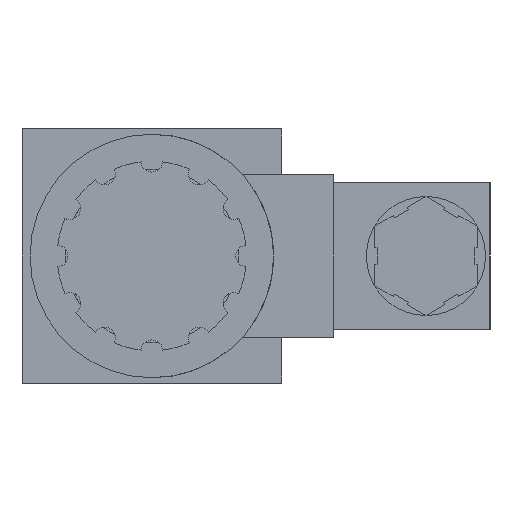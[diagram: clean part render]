
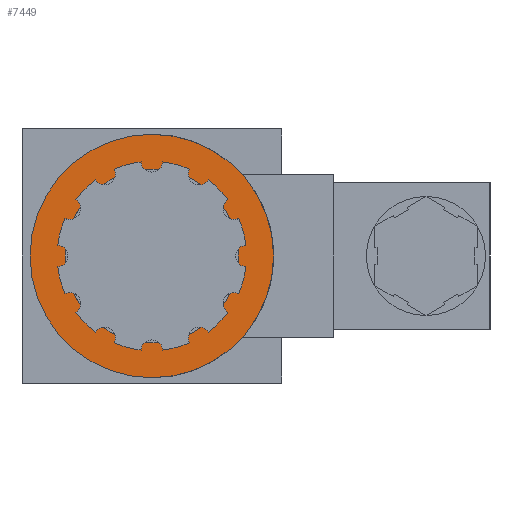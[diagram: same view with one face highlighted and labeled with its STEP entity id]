
A CAD part, left-side view. The second image highlights one B-rep face of the part: STEP entity #7449.
In plain terms, the highlighted planar face has unit normal (-1, 0, 0).
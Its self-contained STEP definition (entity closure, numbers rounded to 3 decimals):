
#232 = VERTEX_POINT ( 'NONE', #6899 ) ;
#312 = DIRECTION ( 'NONE',  ( 0., 0., 1. ) ) ;
#379 = CARTESIAN_POINT ( 'NONE',  ( -51., 24., -39.5 ) ) ;
#385 = EDGE_LOOP ( 'NONE', ( #7328, #974 ) ) ;
#974 = ORIENTED_EDGE ( 'NONE', *, *, #7630, .F. ) ;
#978 = DIRECTION ( 'NONE',  ( -1., 0., 0. ) ) ;
#1931 = CARTESIAN_POINT ( 'NONE',  ( -51., 24., -23.5 ) ) ;
#2421 = EDGE_LOOP ( 'NONE', ( #2740, #8428 ) ) ;
#2491 = CIRCLE ( 'NONE', #2957, 16. ) ;
#2616 = DIRECTION ( 'NONE',  ( 0., 0., 1. ) ) ;
#2740 = ORIENTED_EDGE ( 'NONE', *, *, #5409, .T. ) ;
#2819 = DIRECTION ( 'NONE',  ( -1., 0., 0. ) ) ;
#2897 = EDGE_CURVE ( 'NONE', #7894, #4938, #2937, .T. ) ;
#2937 = CIRCLE ( 'NONE', #5770, 16. ) ;
#2957 = AXIS2_PLACEMENT_3D ( 'NONE', #8152, #4328, #312 ) ;
#3033 = EDGE_CURVE ( 'NONE', #232, #4327, #6859, .T. ) ;
#3114 = DIRECTION ( 'NONE',  ( -1., 0., 0. ) ) ;
#3431 = AXIS2_PLACEMENT_3D ( 'NONE', #1931, #6488, #2616 ) ;
#3451 = PLANE ( 'NONE',  #6155 ) ;
#4327 = VERTEX_POINT ( 'NONE', #6952 ) ;
#4328 = DIRECTION ( 'NONE',  ( -1., 0., 0. ) ) ;
#4938 = VERTEX_POINT ( 'NONE', #8278 ) ;
#4950 = CARTESIAN_POINT ( 'NONE',  ( -51., 24., -23.5 ) ) ;
#5409 = EDGE_CURVE ( 'NONE', #4327, #232, #8404, .T. ) ;
#5466 = FACE_OUTER_BOUND ( 'NONE', #2421, .T. ) ;
#5603 = DIRECTION ( 'NONE',  ( 0., 0., 1. ) ) ;
#5770 = AXIS2_PLACEMENT_3D ( 'NONE', #6954, #3114, #7593 ) ;
#5926 = AXIS2_PLACEMENT_3D ( 'NONE', #4950, #978, #5603 ) ;
#6155 = AXIS2_PLACEMENT_3D ( 'NONE', #6672, #2819, #7323 ) ;
#6488 = DIRECTION ( 'NONE',  ( -1., 0., 0. ) ) ;
#6672 = CARTESIAN_POINT ( 'NONE',  ( -51., 24., -23.5 ) ) ;
#6859 = CIRCLE ( 'NONE', #3431, 22.5 ) ;
#6899 = CARTESIAN_POINT ( 'NONE',  ( -51., 24., -1. ) ) ;
#6952 = CARTESIAN_POINT ( 'NONE',  ( -51., 24., -46. ) ) ;
#6954 = CARTESIAN_POINT ( 'NONE',  ( -51., 24., -23.5 ) ) ;
#7323 = DIRECTION ( 'NONE',  ( 0., 0., 1. ) ) ;
#7328 = ORIENTED_EDGE ( 'NONE', *, *, #2897, .F. ) ;
#7449 = ADVANCED_FACE ( 'NONE', ( #5466, #8431 ), #3451, .T. ) ;
#7593 = DIRECTION ( 'NONE',  ( 0., 0., 1. ) ) ;
#7630 = EDGE_CURVE ( 'NONE', #4938, #7894, #2491, .T. ) ;
#7894 = VERTEX_POINT ( 'NONE', #379 ) ;
#8152 = CARTESIAN_POINT ( 'NONE',  ( -51., 24., -23.5 ) ) ;
#8278 = CARTESIAN_POINT ( 'NONE',  ( -51., 24., -7.5 ) ) ;
#8404 = CIRCLE ( 'NONE', #5926, 22.5 ) ;
#8428 = ORIENTED_EDGE ( 'NONE', *, *, #3033, .T. ) ;
#8431 = FACE_BOUND ( 'NONE', #385, .T. ) ;
